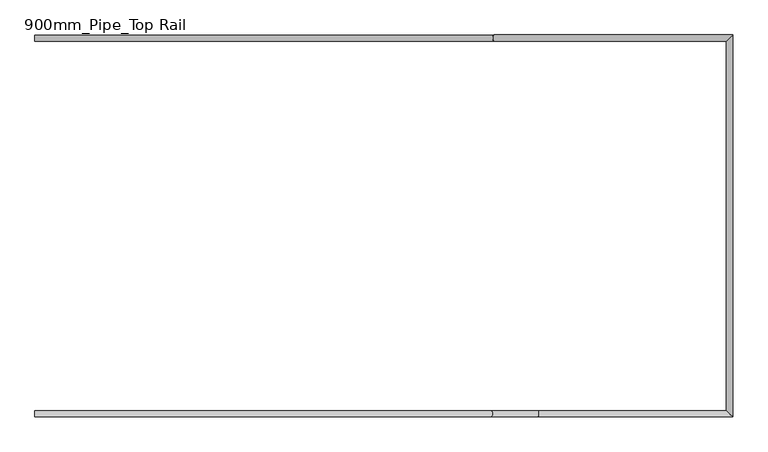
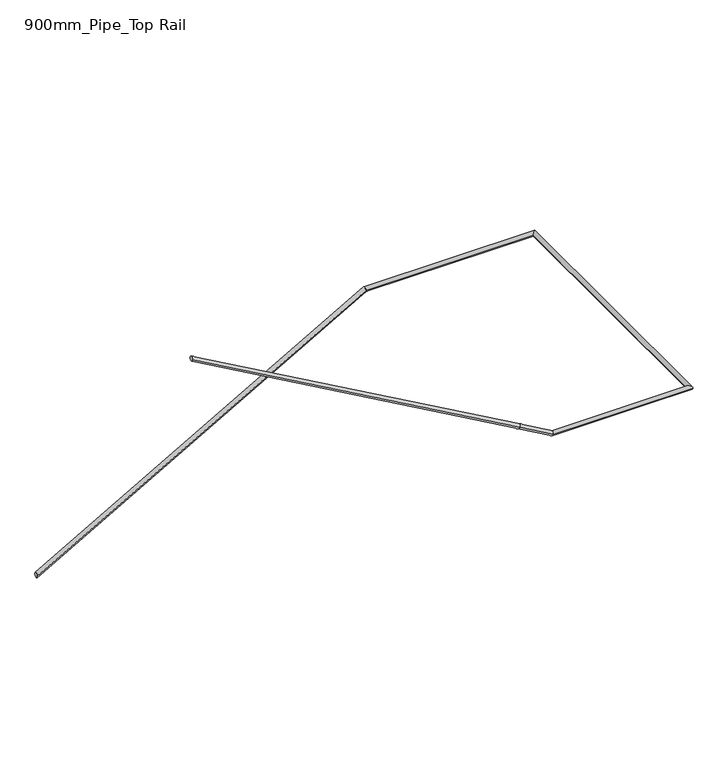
"""IFC4 building model written with IfcOpenShell, lengths in millimetres: railing geometry, 900mm_Pipe_Top Rail."""

import ifcopenshell
import ifcopenshell.guid

model = None  # the IFC model being written
_history = None  # IfcOwnerHistory: only IFC2X3 demands one
_inside = {}  # id of a spatial element -> (the spatial element, [elements in it])
_under = {}  # id of a project, library or spatial element -> (it, [spatial elements below it])
_declared = {}  # id of a project -> (the project, [libraries it declares])
_typed = {}  # id of a type object -> (the type object, [elements of that type])
_made_of = {}  # id of a material, layer set ... -> (it, [elements and type objects made of it])


def new_model(schema):
    """Start an empty IFC model of exactly this schema.

    Asked for "IFC4X3", IfcOpenShell would pick the latest addendum, in which some entities
    have other attributes; the version numbers below select the first issue.
    IFC2X3 requires an IfcOwnerHistory on every rooted entity: one is made here for all.
    """
    global model, _history
    if schema == "IFC4X3":
        model = ifcopenshell.file(schema_version=(4, 3, 0, 0))
    else:
        model = ifcopenshell.file(schema=schema)
    _inside.clear()
    _under.clear()
    _declared.clear()
    _typed.clear()
    _made_of.clear()
    _history = None
    if model.schema == "IFC2X3":
        org = make("IfcOrganization", Name="unknown")
        user = make(
            "IfcPersonAndOrganization",
            ThePerson=make("IfcPerson", FamilyName="unknown"),
            TheOrganization=org,
        )
        app = make(
            "IfcApplication",
            ApplicationDeveloper=org,
            Version="unknown",
            ApplicationFullName="unknown",
            ApplicationIdentifier="unknown",
        )
        _history = make(
            "IfcOwnerHistory",
            OwningUser=user,
            OwningApplication=app,
            ChangeAction="ADDED",
            CreationDate=0,
        )
    return model


def make(cls, **values):
    """One entity of the class cls with the attributes given. An attribute that is None is left unset."""
    return model.create_entity(
        cls, **{name: value for name, value in values.items() if value is not None}
    )


def rooted(cls, **values):
    """An entity with a GlobalId (a new one), such as an element, a storey or a relation."""
    return make(cls, GlobalId=ifcopenshell.guid.new(), OwnerHistory=_history, **values)


def si_unit(unit_type, name, prefix=None):
    """IfcSIUnit, for example si_unit("LENGTHUNIT", "METRE", prefix="MILLI")."""
    return make("IfcSIUnit", UnitType=unit_type, Prefix=prefix, Name=name)


def assignment(units):
    """IfcUnitAssignment: the units of a project."""
    return None if units is None else make("IfcUnitAssignment", Units=units)


def point(xyz):
    """IfcCartesianPoint."""
    return None if xyz is None else make("IfcCartesianPoint", Coordinates=xyz)


def direction(xyz):
    """IfcDirection."""
    return None if xyz is None else make("IfcDirection", DirectionRatios=xyz)


def frame(location, z_axis=None, x_axis=None):
    """IfcAxis2Placement3D, a coordinate frame: its origin and axes. An axis left out is left unset."""
    return make(
        "IfcAxis2Placement3D",
        Location=point(location),
        Axis=direction(z_axis),
        RefDirection=direction(x_axis),
    )


def origin():
    """The frame at (0, 0, 0) with its axes left unset."""
    return frame((0.0, 0.0, 0.0))


def place(relative_to, where):
    """IfcLocalPlacement: puts the frame where relative to a parent placement (None: the world)."""
    return make(
        "IfcLocalPlacement", PlacementRelTo=relative_to, RelativePlacement=where
    )


def context(
    kind, dimensions, precision=None, world=None, true_north=None, identifier=None
):
    """IfcGeometricRepresentationContext, for example the 3D "Model" context."""
    return make(
        "IfcGeometricRepresentationContext",
        ContextIdentifier=identifier,
        ContextType=kind,
        CoordinateSpaceDimension=dimensions,
        Precision=precision,
        WorldCoordinateSystem=world,
        TrueNorth=true_north,
    )


def project(units=None, contexts=None):
    """IfcProject with its units and contexts."""
    return rooted(
        "IfcProject",
        Name="project",
        RepresentationContexts=contexts,
        UnitsInContext=assignment(units),
    )


def spatial(cls, under=None, at=None, **own):
    """A site, building, storey or space (cls), placed at a placement, below another one or the project."""
    s = rooted(cls, ObjectPlacement=at, **own)
    if under is not None:
        _under.setdefault(under.id(), (under, []))[1].append(s)
    return s


def circle_curve(where, radius):
    """IfcCircle in the frame where."""
    return make("IfcCircle", Position=where, Radius=radius)


def ellipse_curve(where, semi_axis1, semi_axis2):
    """IfcEllipse in the frame where."""
    return make(
        "IfcEllipse", Position=where, SemiAxis1=semi_axis1, SemiAxis2=semi_axis2
    )


def shape(context_of_items, identifier, shape_type, items):
    """IfcShapeRepresentation: the items that make up one representation, for example the "Body"."""
    return make(
        "IfcShapeRepresentation",
        ContextOfItems=context_of_items,
        RepresentationIdentifier=identifier,
        RepresentationType=shape_type,
        Items=items,
    )


def source(mapping_origin, context_of_items, identifier, shape_type, items):
    """IfcRepresentationMap: a shape defined once, which mapped items show again and again."""
    return make(
        "IfcRepresentationMap",
        MappingOrigin=mapping_origin,
        MappedRepresentation=shape(context_of_items, identifier, shape_type, items),
    )


def transform(
    local_origin,
    x_axis=None,
    y_axis=None,
    z_axis=None,
    scale=None,
    scale2=None,
    scale3=None,
    uniform=True,
):
    """IfcCartesianTransformationOperator3D, or its non-uniform kind. x_axis, y_axis, z_axis: its Axis1, 2, 3."""
    if uniform:
        return make(
            "IfcCartesianTransformationOperator3D",
            Axis1=direction(x_axis),
            Axis2=direction(y_axis),
            LocalOrigin=point(local_origin),
            Scale=scale,
            Axis3=direction(z_axis),
        )
    return make(
        "IfcCartesianTransformationOperator3DnonUniform",
        Axis1=direction(x_axis),
        Axis2=direction(y_axis),
        LocalOrigin=point(local_origin),
        Scale=scale,
        Axis3=direction(z_axis),
        Scale2=scale2,
        Scale3=scale3,
    )


def mapped(mapping_source, mapping_target):
    """IfcMappedItem: shows the shape of a source again, moved by a transform."""
    return make(
        "IfcMappedItem", MappingSource=mapping_source, MappingTarget=mapping_target
    )


def made_of(thing, what):
    """Note that an element or type object is made of a material, layer set ...; save() writes the relation."""
    if what is not None:
        _made_of.setdefault(what.id(), (what, []))[1].append(thing)
    return thing


def element(
    cls,
    number,
    at=None,
    inside=None,
    cuts=None,
    type_object=None,
    material=None,
    context=None,
    identifier="Body",
    shape_type=None,
    held_by="IfcProductDefinitionShape",
    body=None,
    shapes=None,
    **own,
):
    """One element of the class cls, such as IfcWall. Its Tag is "e" and its number.

    at: its placement. inside: the storey or other place that contains it. cuts: it is an
    opening in that element (IfcRelVoidsElement). A single representation is given by context,
    identifier, shape_type and body (its items); several are given by shapes. held_by: the class
    of the entity that holds the representations. save() writes the other relations.
    """
    e = rooted(cls, Tag="e%d" % number, ObjectPlacement=at, **own)
    if body is not None:
        shapes = [shape(context, identifier, shape_type, body)]
    if shapes is not None:
        e.Representation = make(held_by, Representations=shapes)
    if inside is not None:
        _inside.setdefault(inside.id(), (inside, []))[1].append(e)
    if cuts is not None:
        rooted(
            "IfcRelVoidsElement", RelatingBuildingElement=cuts, RelatedOpeningElement=e
        )
    if type_object is not None:
        _typed.setdefault(type_object.id(), (type_object, []))[1].append(e)
    return made_of(e, material)


def aggregate(whole, parts):
    """IfcRelAggregates: a whole, such as a stair, and the parts it consists of."""
    return rooted("IfcRelAggregates", RelatingObject=whole, RelatedObjects=parts)


def save(model, path):
    """Write the relations noted so far, then the file.

    IfcRelAggregates (storeys below a building ...), IfcRelContainedInSpatialStructure (elements
    in a storey), IfcRelDefinesByType, IfcRelAssociatesMaterial and IfcRelDeclares: one each for
    every whole, place, type object, material and project.
    """
    for whole, parts in _under.values():
        aggregate(whole, parts)
    for where, things in _inside.values():
        rooted(
            "IfcRelContainedInSpatialStructure",
            RelatedElements=things,
            RelatingStructure=where,
        )
    for kind, things in _typed.values():
        rooted("IfcRelDefinesByType", RelatedObjects=things, RelatingType=kind)
    for what, things in _made_of.values():
        rooted("IfcRelAssociatesMaterial", RelatedObjects=things, RelatingMaterial=what)
    for by, libraries in _declared.values():
        rooted("IfcRelDeclares", RelatingContext=by, RelatedDefinitions=libraries)
    model.write(path)


def plane_surface(at):
    """IfcPlane: the flat surface through the origin of the frame at, square to its z axis."""
    return make("IfcPlane", Position=at)


def cylinder_surface(at, radius):
    """IfcCylindricalSurface: all points at the distance radius from the z axis of the frame at."""
    return make("IfcCylindricalSurface", Position=at, Radius=radius)


def advanced_brep(points, edges, surfaces, faces):
    """IfcAdvancedBrep: a solid bounded by faces that lie on surfaces and meet in shared edges.

    An edge is (start, end): straight between two places in points (the first is 0);
    or (start, end, curve); or (start, end, curve, False) where it runs against its curve.
    A face is (place in surfaces, loops), or (place, loops, False) where it looks against
    its surface's normal. A loop lists edges by number (the first is 1), with a minus sign
    where the edge is run from its end to its start. The first loop is the outer one.
    """
    corners = [point(p) for p in points]
    vertices = [make("IfcVertexPoint", VertexGeometry=c) for c in corners]
    made = []
    for start, end, *more in edges:
        made.append(
            make(
                "IfcEdgeCurve",
                EdgeStart=vertices[start],
                EdgeEnd=vertices[end],
                EdgeGeometry=more[0] if more else make("IfcPolyline", Points=[corners[start], corners[end]]),
                SameSense=more[1] if len(more) > 1 else True,
            )
        )
    hull = []
    for where, loops, *sense in faces:
        bounds = []
        for j, loop in enumerate(loops):
            ring = [make("IfcOrientedEdge", EdgeElement=made[abs(k) - 1], Orientation=k > 0) for k in loop]
            bounds.append(
                make(
                    "IfcFaceOuterBound" if j == 0 else "IfcFaceBound",
                    Bound=make("IfcEdgeLoop", EdgeList=ring),
                    Orientation=True,
                )
            )
        hull.append(make("IfcAdvancedFace", Bounds=bounds, FaceSurface=surfaces[where], SameSense=sense[0] if sense else True))
    return make("IfcAdvancedBrep", Outer=make("IfcClosedShell", CfsFaces=hull))


def railing_900mm_pipe_top_rail_dbc6d34f(model_context):
    return source(origin(), model_context, "Body", "AdvancedBrep", [
        advanced_brep(
        [(-801.4958562, 13503.7395051, 16057.451671), (-801.4958562, 13543.7395051, 16057.451671), (2203.7892028, 13503.7395051, 17765.0), (2203.7892028, 13543.7395051, 17765.0), (3728.1041438, 13503.7395051, 17765.0), (3768.1041438, 13543.7395051, 17765.0), (3728.1041438, 11085.0238126, 17765.0), (3768.1041438, 11045.0238126, 17765.0), (2493.2190848, 11085.0238126, 17765.0), (2493.2190848, 11045.0238126, 17765.0), (2188.6239556, 11085.0238126, 17938.0654143), (2188.6239556, 11045.0238126, 17938.0654143), (-801.4958562, 11085.0238126, 19636.9971256), (-801.4958562, 11045.0238126, 19636.9971256)],
        [
            (0, 1, ellipse_curve(frame((-801.4958562, 13523.7395051, 16057.451671), z_axis=(-1.0, 0.0, 0.0), x_axis=(0.0, 0.0, -1.0)), 23.0028744, 20.0)),
            (1, 0, ellipse_curve(frame((-801.4958562, 13523.7395051, 16057.451671), z_axis=(-1.0, 0.0, 0.0), x_axis=(0.0, 0.0, -1.0)), 23.0028744, 20.0)),
            (0, 2),
            (2, 3, ellipse_curve(frame((2203.7892028, 13523.7395051, 17765.0), z_axis=(-0.9668134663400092, 0.0, -0.2554833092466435), x_axis=(0.25548330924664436, 0.0, -0.9668134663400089)), 20.6865137, 20.0)),
            (3, 1),
            (3, 2, ellipse_curve(frame((2203.7892028, 13523.7395051, 17765.0), z_axis=(-0.9668134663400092, 0.0, -0.2554833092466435), x_axis=(0.25548330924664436, 0.0, -0.9668134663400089)), 20.6865137, 20.0)),
            (2, 4),
            (4, 5, ellipse_curve(frame((3748.1041438, 13523.7395051, 17765.0), z_axis=(-0.707106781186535, 0.70710678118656, 0.0), x_axis=(-0.70710678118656, -0.707106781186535, 0.0)), 28.2842712, 20.0)),
            (5, 3),
            (5, 4, ellipse_curve(frame((3748.1041438, 13523.7395051, 17765.0), z_axis=(-0.707106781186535, 0.70710678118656, 0.0), x_axis=(-0.70710678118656, -0.707106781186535, 0.0)), 28.2842712, 20.0)),
            (4, 6),
            (6, 7, ellipse_curve(frame((3748.1041438, 11065.0238126, 17765.0), z_axis=(0.7071067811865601, 0.707106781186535, 0.0), x_axis=(-0.707106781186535, 0.7071067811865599, 0.0)), 28.2842712, 20.0)),
            (7, 5),
            (7, 6, ellipse_curve(frame((3748.1041438, 11065.0238126, 17765.0), z_axis=(0.7071067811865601, 0.707106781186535, 0.0), x_axis=(-0.707106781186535, 0.7071067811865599, 0.0)), 28.2842712, 20.0)),
            (6, 8),
            (8, 9, ellipse_curve(frame((2493.2190848, 11065.0238126, 17765.0), z_axis=(0.9668134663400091, 0.0, -0.2554833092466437), x_axis=(0.2554833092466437, 0.0, 0.966813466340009)), 20.6865137, 20.0)),
            (9, 7),
            (9, 8, ellipse_curve(frame((2493.2190848, 11065.0238126, 17765.0), z_axis=(0.9668134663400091, 0.0, -0.2554833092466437), x_axis=(0.2554833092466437, 0.0, 0.966813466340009)), 20.6865137, 20.0)),
            (8, 10),
            (10, 11, circle_curve(frame((2188.6239556, 11065.0238126, 17938.0654143), z_axis=(0.8694565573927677, 0.0, -0.494009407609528), x_axis=(0.0, -1.0, 0.0)), 20.0)),
            (11, 9),
            (11, 10, circle_curve(frame((2188.6239556, 11065.0238126, 17938.0654143), z_axis=(0.8694565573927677, 0.0, -0.494009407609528), x_axis=(0.0, -1.0, 0.0)), 20.0)),
            (12, 13, ellipse_curve(frame((-801.4958562, 11065.0238126, 19636.9971256), z_axis=(-1.0, 0.0, 0.0), x_axis=(0.0, 0.0, -1.0)), 23.0028744, 20.0)),
            (13, 12, ellipse_curve(frame((-801.4958562, 11065.0238126, 19636.9971256), z_axis=(-1.0, 0.0, 0.0), x_axis=(0.0, 0.0, -1.0)), 23.0028744, 20.0)),
            (10, 12),
            (13, 11),
        ],
        [
            plane_surface(frame((-801.4958562, 13523.7395051, 16080.4545455), z_axis=(-1.0, 0.0, 0.0), x_axis=(0.0, 1.0, 0.0))),
            cylinder_surface(frame((-791.6156681, 13523.7395051, 16063.0654143), z_axis=(-0.8694565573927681, 0.0, -0.4940094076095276), x_axis=(0.0, 1.0, 0.0)), 20.0),
            cylinder_surface(frame((2198.5041438, 13523.7395051, 17765.0), z_axis=(-1.0, 0.0, 0.0), x_axis=(0.0, 1.0, 0.0)), 20.0),
            cylinder_surface(frame((3748.1041438, 13523.7395051, 17765.0), z_axis=(0.0, 1.0, 0.0), x_axis=(1.0, 0.0, 0.0)), 20.0),
            cylinder_surface(frame((3748.1041438, 11065.0238126, 17765.0), z_axis=(1.0, 0.0, 0.0), x_axis=(0.0, -1.0, 0.0)), 20.0),
            cylinder_surface(frame((2488.6239556, 11065.0238126, 17767.6108689), z_axis=(0.8694565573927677, 0.0, -0.494009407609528), x_axis=(0.0, -1.0, 0.0)), 20.0),
            plane_surface(frame((-801.4958562, 11065.0238126, 19660.0), z_axis=(-1.0, 0.0, 0.0), x_axis=(0.0, -1.0, 0.0))),
            cylinder_surface(frame((2188.6239556, 11065.0238126, 17938.0654143), z_axis=(0.8694565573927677, 0.0, -0.49400940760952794), x_axis=(0.0, -1.0, 0.0)), 20.0),
        ],
        [
            (0, [[1, 2]]),
            (1, [[-1, 3, 4, 5]]),
            (1, [[-2, -5, 6, -3]]),
            (2, [[-4, 7, 8, 9]]),
            (2, [[-6, -9, 10, -7]]),
            (3, [[-8, 11, 12, 13]]),
            (3, [[-10, -13, 14, -11]]),
            (4, [[-12, 15, 16, 17]]),
            (4, [[-14, -17, 18, -15]]),
            (5, [[-16, 19, 20, 21]]),
            (5, [[-18, -21, 22, -19]]),
            (6, [[23, 24]]),
            (7, [[-20, 25, -24, 26]]),
            (7, [[-22, -26, -23, -25]]),
        ],
    ),
    ])


if __name__ == "__main__":
    model = new_model("IFC4")
    model_context = context("Model", 3, world=origin())
    ifc_project = project(units=[si_unit("LENGTHUNIT", "METRE", prefix="MILLI")], contexts=[model_context])
    site = spatial("IfcSite", under=ifc_project)
    building = spatial("IfcBuilding", under=site)
    placement = place(None, origin())
    railing_900mm_pipe_top_rail_shape = railing_900mm_pipe_top_rail_dbc6d34f(model_context)
    element("IfcRailing", 1, ObjectType="900mm_Pipe_Top Rail", at=placement, inside=building, context=model_context, shape_type="MappedRepresentation", body=[
        mapped(railing_900mm_pipe_top_rail_shape, transform((0.0, 0.0, 0.0), x_axis=(1.0, 0.0, 0.0), y_axis=(0.0, 1.0, 0.0), z_axis=(0.0, 0.0, 1.0))),
    ])
    save(model, "model.ifc")
